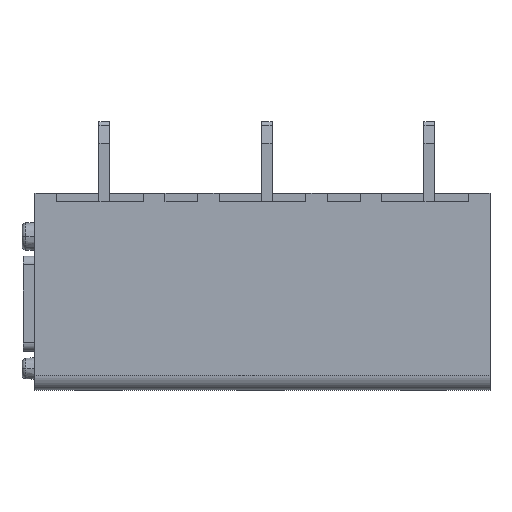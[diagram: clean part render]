
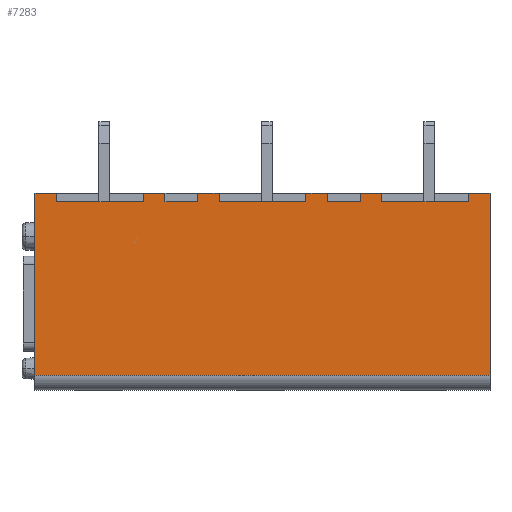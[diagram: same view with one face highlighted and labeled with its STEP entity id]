
A CAD part, left-side view. The second image highlights one B-rep face of the part: STEP entity #7283.
In plain terms, the highlighted planar face has unit normal (-1, 0, 0).
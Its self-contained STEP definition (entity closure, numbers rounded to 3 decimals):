
#200=DIRECTION('',(0.,1.,0.));
#201=VECTOR('',#200,4.);
#202=CARTESIAN_POINT('',(0.,-19.,-0.4));
#203=LINE('',#202,#201);
#212=DIRECTION('',(0.,1.,0.));
#213=VECTOR('',#212,4.);
#214=CARTESIAN_POINT('',(0.,-11.5,-0.4));
#215=LINE('',#214,#213);
#224=DIRECTION('',(0.,1.,0.));
#225=VECTOR('',#224,4.);
#226=CARTESIAN_POINT('',(0.,-4.,-0.4));
#227=LINE('',#226,#225);
#616=DIRECTION('',(0.,0.,-1.));
#617=VECTOR('',#616,8.4);
#618=CARTESIAN_POINT('',(0.,1.,0.));
#619=LINE('',#618,#617);
#799=DIRECTION('',(0.,0.,1.));
#800=VECTOR('',#799,0.4);
#801=CARTESIAN_POINT('',(0.,0.,-0.4));
#802=LINE('',#801,#800);
#811=DIRECTION('',(0.,0.,1.));
#812=VECTOR('',#811,0.4);
#813=CARTESIAN_POINT('',(0.,-19.,-0.4));
#814=LINE('',#813,#812);
#815=DIRECTION('',(0.,0.,-1.));
#816=VECTOR('',#815,8.4);
#817=CARTESIAN_POINT('',(0.,-20.,0.));
#818=LINE('',#817,#816);
#819=DIRECTION('',(0.,0.,1.));
#820=VECTOR('',#819,0.4);
#821=CARTESIAN_POINT('',(0.,-4.,-0.4));
#822=LINE('',#821,#820);
#823=DIRECTION('',(0.,0.,-1.));
#824=VECTOR('',#823,0.4);
#825=CARTESIAN_POINT('',(0.,-5.,0.));
#826=LINE('',#825,#824);
#827=DIRECTION('',(0.,-1.,0.));
#828=VECTOR('',#827,1.5);
#829=CARTESIAN_POINT('',(0.,-5.,-0.4));
#830=LINE('',#829,#828);
#831=DIRECTION('',(0.,-1.,0.));
#832=VECTOR('',#831,1.);
#833=CARTESIAN_POINT('',(0.,-6.5,0.));
#834=LINE('',#833,#832);
#835=DIRECTION('',(0.,0.,1.));
#836=VECTOR('',#835,0.4);
#837=CARTESIAN_POINT('',(0.,-11.5,-0.4));
#838=LINE('',#837,#836);
#839=DIRECTION('',(0.,0.,-1.));
#840=VECTOR('',#839,0.4);
#841=CARTESIAN_POINT('',(0.,-12.5,0.));
#842=LINE('',#841,#840);
#843=DIRECTION('',(0.,-1.,0.));
#844=VECTOR('',#843,1.5);
#845=CARTESIAN_POINT('',(0.,-12.5,-0.4));
#846=LINE('',#845,#844);
#847=DIRECTION('',(0.,-1.,0.));
#848=VECTOR('',#847,1.);
#849=CARTESIAN_POINT('',(0.,-14.,0.));
#850=LINE('',#849,#848);
#855=DIRECTION('',(0.,0.,1.));
#856=VECTOR('',#855,0.4);
#857=CARTESIAN_POINT('',(0.,-15.,-0.4));
#858=LINE('',#857,#856);
#875=DIRECTION('',(0.,0.,-1.));
#876=VECTOR('',#875,0.4);
#877=CARTESIAN_POINT('',(0.,-14.,0.));
#878=LINE('',#877,#876);
#899=DIRECTION('',(0.,1.,0.));
#900=VECTOR('',#899,1.);
#901=CARTESIAN_POINT('',(0.,-20.,0.));
#902=LINE('',#901,#900);
#907=DIRECTION('',(0.,-1.,0.));
#908=VECTOR('',#907,21.);
#909=CARTESIAN_POINT('',(0.,1.,-8.4));
#910=LINE('',#909,#908);
#4146=DIRECTION('',(0.,1.,0.));
#4147=VECTOR('',#4146,1.);
#4148=CARTESIAN_POINT('',(0.,0.,0.));
#4149=LINE('',#4148,#4147);
#4174=DIRECTION('',(0.,1.,0.));
#4175=VECTOR('',#4174,1.);
#4176=CARTESIAN_POINT('',(0.,-5.,0.));
#4177=LINE('',#4176,#4175);
#4190=DIRECTION('',(0.,0.,-1.));
#4191=VECTOR('',#4190,0.4);
#4192=CARTESIAN_POINT('',(0.,-6.5,0.));
#4193=LINE('',#4192,#4191);
#4206=DIRECTION('',(0.,0.,1.));
#4207=VECTOR('',#4206,0.4);
#4208=CARTESIAN_POINT('',(0.,-7.5,-0.4));
#4209=LINE('',#4208,#4207);
#4242=DIRECTION('',(0.,1.,0.));
#4243=VECTOR('',#4242,1.);
#4244=CARTESIAN_POINT('',(0.,-12.5,0.));
#4245=LINE('',#4244,#4243);
#4963=CARTESIAN_POINT('',(0.,0.,-0.4));
#4965=VERTEX_POINT('',#4963);
#4966=CARTESIAN_POINT('',(0.,0.,0.));
#4967=VERTEX_POINT('',#4966);
#4998=CARTESIAN_POINT('',(0.,-19.,-0.4));
#4999=VERTEX_POINT('',#4998);
#5000=CARTESIAN_POINT('',(0.,-15.,-0.4));
#5001=VERTEX_POINT('',#5000);
#5006=CARTESIAN_POINT('',(0.,-14.,-0.4));
#5007=VERTEX_POINT('',#5006);
#5008=CARTESIAN_POINT('',(0.,-12.5,-0.4));
#5009=VERTEX_POINT('',#5008);
#5014=CARTESIAN_POINT('',(0.,-11.5,-0.4));
#5015=VERTEX_POINT('',#5014);
#5016=CARTESIAN_POINT('',(0.,-7.5,-0.4));
#5017=VERTEX_POINT('',#5016);
#5022=CARTESIAN_POINT('',(0.,-6.5,-0.4));
#5023=VERTEX_POINT('',#5022);
#5024=CARTESIAN_POINT('',(0.,-5.,-0.4));
#5025=VERTEX_POINT('',#5024);
#5030=CARTESIAN_POINT('',(0.,-4.,-0.4));
#5031=VERTEX_POINT('',#5030);
#5276=CARTESIAN_POINT('',(0.,1.,0.));
#5277=VERTEX_POINT('',#5276);
#5278=CARTESIAN_POINT('',(0.,1.,-8.4));
#5279=VERTEX_POINT('',#5278);
#5360=CARTESIAN_POINT('',(0.,-15.,0.));
#5361=VERTEX_POINT('',#5360);
#5362=CARTESIAN_POINT('',(0.,-19.,0.));
#5363=VERTEX_POINT('',#5362);
#5364=CARTESIAN_POINT('',(0.,-20.,0.));
#5365=VERTEX_POINT('',#5364);
#5366=CARTESIAN_POINT('',(0.,-20.,-8.4));
#5367=VERTEX_POINT('',#5366);
#5368=CARTESIAN_POINT('',(0.,-4.,0.));
#5369=VERTEX_POINT('',#5368);
#5370=CARTESIAN_POINT('',(0.,-5.,0.));
#5371=VERTEX_POINT('',#5370);
#5372=CARTESIAN_POINT('',(0.,-6.5,0.));
#5373=VERTEX_POINT('',#5372);
#5374=CARTESIAN_POINT('',(0.,-7.5,0.));
#5375=VERTEX_POINT('',#5374);
#5376=CARTESIAN_POINT('',(0.,-11.5,0.));
#5377=VERTEX_POINT('',#5376);
#5378=CARTESIAN_POINT('',(0.,-12.5,0.));
#5379=VERTEX_POINT('',#5378);
#5380=CARTESIAN_POINT('',(0.,-14.,0.));
#5381=VERTEX_POINT('',#5380);
#7236=CARTESIAN_POINT('',(0.,0.,-9.1));
#7237=DIRECTION('',(-1.,0.,0.));
#7238=DIRECTION('',(0.,0.,1.));
#7239=AXIS2_PLACEMENT_3D('',#7236,#7237,#7238);
#7240=PLANE('',#7239);
#7242=ORIENTED_EDGE('',*,*,#7241,.F.);
#7243=ORIENTED_EDGE('',*,*,#6623,.F.);
#7245=ORIENTED_EDGE('',*,*,#7244,.T.);
#7247=ORIENTED_EDGE('',*,*,#7246,.F.);
#7248=ORIENTED_EDGE('',*,*,#6508,.T.);
#7250=ORIENTED_EDGE('',*,*,#7249,.F.);
#7251=ORIENTED_EDGE('',*,*,#7051,.F.);
#7253=ORIENTED_EDGE('',*,*,#7252,.F.);
#7254=ORIENTED_EDGE('',*,*,#7228,.F.);
#7255=ORIENTED_EDGE('',*,*,#6655,.F.);
#7257=ORIENTED_EDGE('',*,*,#7256,.T.);
#7259=ORIENTED_EDGE('',*,*,#7258,.F.);
#7261=ORIENTED_EDGE('',*,*,#7260,.T.);
#7262=ORIENTED_EDGE('',*,*,#6647,.T.);
#7264=ORIENTED_EDGE('',*,*,#7263,.F.);
#7266=ORIENTED_EDGE('',*,*,#7265,.T.);
#7268=ORIENTED_EDGE('',*,*,#7267,.F.);
#7269=ORIENTED_EDGE('',*,*,#6639,.F.);
#7271=ORIENTED_EDGE('',*,*,#7270,.T.);
#7273=ORIENTED_EDGE('',*,*,#7272,.F.);
#7275=ORIENTED_EDGE('',*,*,#7274,.T.);
#7276=ORIENTED_EDGE('',*,*,#6631,.T.);
#7278=ORIENTED_EDGE('',*,*,#7277,.F.);
#7280=ORIENTED_EDGE('',*,*,#7279,.T.);
#7281=EDGE_LOOP('',(#7242,#7243,#7245,#7247,#7248,#7250,#7251,#7253,#7254,#7255,
#7257,#7259,#7261,#7262,#7264,#7266,#7268,#7269,#7271,#7273,#7275,#7276,#7278,
#7280));
#7282=FACE_OUTER_BOUND('',#7281,.F.);
#7283=ADVANCED_FACE('',(#7282),#7240,.T.);
#6508=EDGE_CURVE('',#5365,#5367,#818,.T.);
#6623=EDGE_CURVE('',#4999,#5001,#203,.T.);
#6631=EDGE_CURVE('',#5009,#5007,#846,.T.);
#6639=EDGE_CURVE('',#5015,#5017,#215,.T.);
#6647=EDGE_CURVE('',#5025,#5023,#830,.T.);
#6655=EDGE_CURVE('',#5031,#4965,#227,.T.);
#7051=EDGE_CURVE('',#5277,#5279,#619,.T.);
#7228=EDGE_CURVE('',#4965,#4967,#802,.T.);
#7241=EDGE_CURVE('',#5001,#5361,#858,.T.);
#7244=EDGE_CURVE('',#4999,#5363,#814,.T.);
#7246=EDGE_CURVE('',#5365,#5363,#902,.T.);
#7249=EDGE_CURVE('',#5279,#5367,#910,.T.);
#7252=EDGE_CURVE('',#4967,#5277,#4149,.T.);
#7256=EDGE_CURVE('',#5031,#5369,#822,.T.);
#7258=EDGE_CURVE('',#5371,#5369,#4177,.T.);
#7260=EDGE_CURVE('',#5371,#5025,#826,.T.);
#7263=EDGE_CURVE('',#5373,#5023,#4193,.T.);
#7265=EDGE_CURVE('',#5373,#5375,#834,.T.);
#7267=EDGE_CURVE('',#5017,#5375,#4209,.T.);
#7270=EDGE_CURVE('',#5015,#5377,#838,.T.);
#7272=EDGE_CURVE('',#5379,#5377,#4245,.T.);
#7274=EDGE_CURVE('',#5379,#5009,#842,.T.);
#7277=EDGE_CURVE('',#5381,#5007,#878,.T.);
#7279=EDGE_CURVE('',#5381,#5361,#850,.T.);
